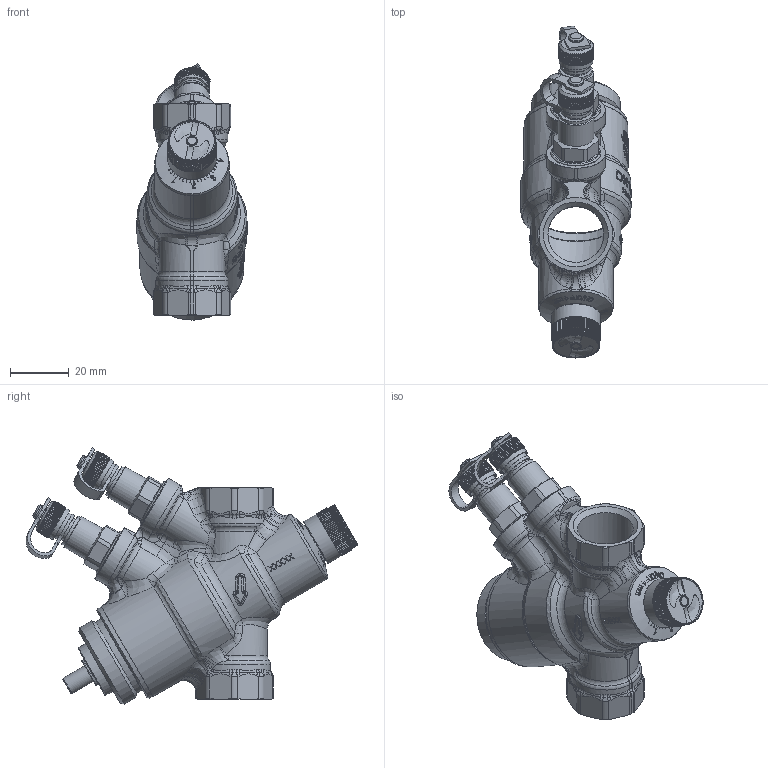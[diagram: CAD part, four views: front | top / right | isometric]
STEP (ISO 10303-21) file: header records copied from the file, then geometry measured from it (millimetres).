
FILE_DESCRIPTION(/* description */ ('Ventil on/off DN15 M/M P/T High'),/* implementation_level */ '2;1');
FILE_NAME(/* name */ 'C:\Users\cbr\Desktop\01-0251.stp',/* time_stamp */ '2019-10-23T10:08:37+02:00',/* author */ ('cbr'),/* organization */ (''),/* preprocessor_version */ 'ST-DEVELOPER v17.2',/* originating_system */ 'Autodesk Inventor 2019',/* authorisation */ '');
FILE_SCHEMA (('AUTOMOTIVE_DESIGN { 1 0 10303 214 3 1 1 }'));
Length unit declared in the file: millimetre
Products named in the file (33): 01-0251; 59777; 901310; 69706; 75609; 68936; 73039-90778; 66591; 66083; 80502; 79168-901310; 73160-901310; 73047; 66592; 80503; 73039-01-02XX; 75315; 67467; 79169; 75612; 90338; 73040 for 90329; 75344_monteret; 73075 for 92005; 90339; 67460; 66588; 67055; 73040 for 67055; 75145; 75345_monteret; 73075 for 90308; 91707_01-0251
Assembly tree (40 placements, depth 3):
  01-0251
    59777
    901310
      69706
      75609
      68936
      73039-90778  x2
      66591
      66083
      80502
      79168-901310
      73160-901310
      73047
      66592
      79169
    80503
    73039-01-02XX
    75315
    67467
    79169
    75612
    90338
      67460
      66588
      67055
      73040 for 90329
      75145  x2
      75344_monteret
      73075 for 92005
    90339
      67460
      66588
      67055
      73040 for 67055
      75145  x2
      75345_monteret
      73075 for 90308
    91707_01-0251
Bounding box: 37.35 x 112.59 x 86.87 mm (x, y, z)
Volume: 50885.5 mm3; surface area: 51194.2 mm2
Topology: 131 solids, 131 shells, 3743 faces, 9974 edges, 6518 vertices
Faces by surface type: plane 1604, bspline 1036, cylinder 775, cone 196, torus 96, sphere 36
Full cylindrical faces by diameter (mm): 2 x1, 2.9 x2, 3 x7, 3.1 x2, 3.2 x2, 3.3 x1, 4 x2, 4.3 x2, 5 x6, 6 x3, 6.1 x2, 6.2 x5, 6.3 x1, 7 x3, 7.4 x1, 7.5 x2, 8 x1, 8.3 x2, 8.566 x2, 9 x2, 9.15 x2, 9.2 x2, 9.3 x1, 9.5 x1, 9.6 x2, 9.728 x2, 10 x3, 11 x4, 11.5 x3, 11.7 x4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
Entity records: 143342 total; most frequent: CARTESIAN_POINT 65543, ORIENTED_EDGE 17636, DIRECTION 13206, EDGE_CURVE 8818, VERTEX_POINT 5769, AXIS2_PLACEMENT_3D 4714, LINE 3778, VECTOR 3778
